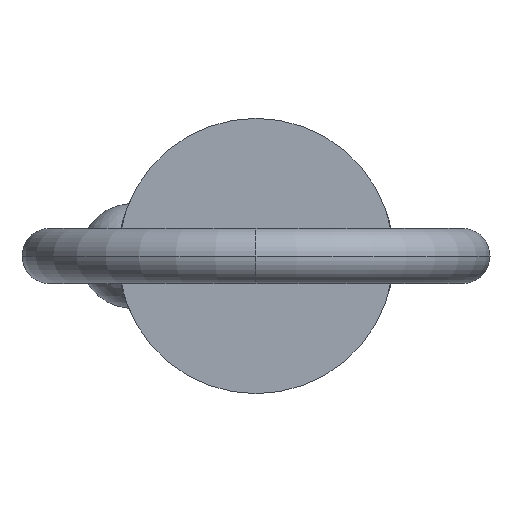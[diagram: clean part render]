
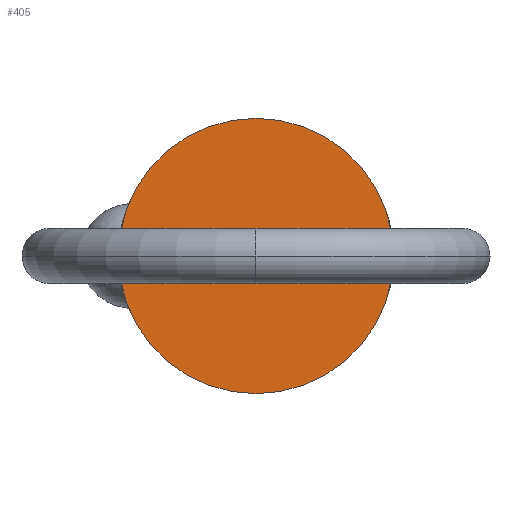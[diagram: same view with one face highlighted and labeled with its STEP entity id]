
A CAD part, left-side view. The second image highlights one B-rep face of the part: STEP entity #405.
In plain terms, the highlighted planar face has unit normal (-1, 0, 0).
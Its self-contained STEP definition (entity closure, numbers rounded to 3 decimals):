
#64 = DIRECTION ( 'NONE',  ( -1., 0., 0. ) ) ;
#74 = CARTESIAN_POINT ( 'NONE',  ( 0., 0., 0. ) ) ;
#150 = CARTESIAN_POINT ( 'NONE',  ( 0., 0., 0. ) ) ;
#246 = AXIS2_PLACEMENT_3D ( 'NONE', #150, #685, #470 ) ;
#371 = PLANE ( 'NONE',  #812 ) ;
#405 = ADVANCED_FACE ( 'NONE', ( #978 ), #371, .T. ) ;
#416 = ORIENTED_EDGE ( 'NONE', *, *, #464, .F. ) ;
#436 = DIRECTION ( 'NONE',  ( 0., 0., 1. ) ) ;
#440 = CARTESIAN_POINT ( 'NONE',  ( 0., 0., 12.7 ) ) ;
#464 = EDGE_CURVE ( 'NONE', #803, #744, #642, .T. ) ;
#470 = DIRECTION ( 'NONE',  ( 0., 0., -1. ) ) ;
#496 = EDGE_CURVE ( 'NONE', #744, #803, #863, .T. ) ;
#517 = ORIENTED_EDGE ( 'NONE', *, *, #496, .F. ) ;
#603 = CARTESIAN_POINT ( 'NONE',  ( 0., 0., -12.7 ) ) ;
#642 = CIRCLE ( 'NONE', #766, 12.7 ) ;
#685 = DIRECTION ( 'NONE',  ( 1., 0., 0. ) ) ;
#744 = VERTEX_POINT ( 'NONE', #603 ) ;
#766 = AXIS2_PLACEMENT_3D ( 'NONE', #972, #965, #900 ) ;
#773 = EDGE_LOOP ( 'NONE', ( #517, #416 ) ) ;
#803 = VERTEX_POINT ( 'NONE', #440 ) ;
#812 = AXIS2_PLACEMENT_3D ( 'NONE', #74, #64, #436 ) ;
#863 = CIRCLE ( 'NONE', #246, 12.7 ) ;
#900 = DIRECTION ( 'NONE',  ( 0., 0., -1. ) ) ;
#965 = DIRECTION ( 'NONE',  ( 1., 0., 0. ) ) ;
#972 = CARTESIAN_POINT ( 'NONE',  ( 0., 0., 0. ) ) ;
#978 = FACE_OUTER_BOUND ( 'NONE', #773, .T. ) ;
